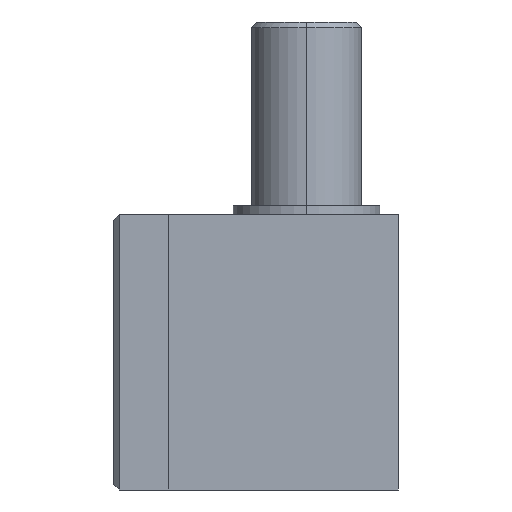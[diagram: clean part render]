
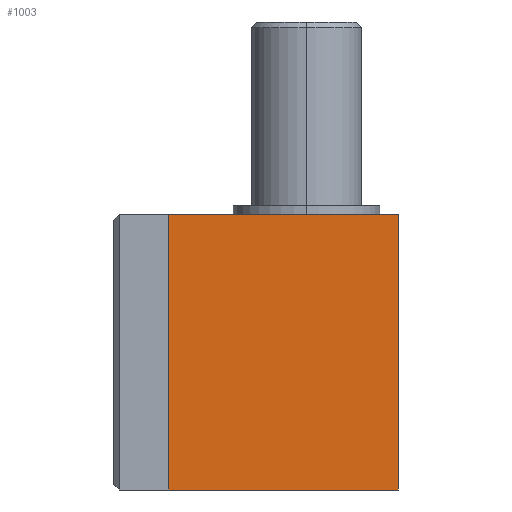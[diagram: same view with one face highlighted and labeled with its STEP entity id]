
A CAD part, left-side view. The second image highlights one B-rep face of the part: STEP entity #1003.
In plain terms, the highlighted planar face has unit normal (-1, 0, 0).
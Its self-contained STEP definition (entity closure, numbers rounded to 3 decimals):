
#41 = CARTESIAN_POINT ( 'NONE',  ( 0., 25., 15. ) ) ;
#49 = LINE ( 'NONE', #41, #1731 ) ;
#107 = DIRECTION ( 'NONE',  ( 0., 0., -1. ) ) ;
#109 = CARTESIAN_POINT ( 'NONE',  ( 0., 25., -15. ) ) ;
#169 = CARTESIAN_POINT ( 'NONE',  ( 0., 0., 15. ) ) ;
#201 = LINE ( 'NONE', #845, #1447 ) ;
#258 = LINE ( 'NONE', #787, #1981 ) ;
#279 = VERTEX_POINT ( 'NONE', #169 ) ;
#579 = AXIS2_PLACEMENT_3D ( 'NONE', #2060, #1087, #107 ) ;
#591 = FACE_OUTER_BOUND ( 'NONE', #898, .T. ) ;
#652 = LINE ( 'NONE', #1725, #1139 ) ;
#750 = DIRECTION ( 'NONE',  ( 0., 0., 1. ) ) ;
#787 = CARTESIAN_POINT ( 'NONE',  ( 0., 25., -15. ) ) ;
#845 = CARTESIAN_POINT ( 'NONE',  ( 0., 25., 15. ) ) ;
#873 = VERTEX_POINT ( 'NONE', #109 ) ;
#898 = EDGE_LOOP ( 'NONE', ( #1122, #1741, #1560, #1166 ) ) ;
#1003 = ADVANCED_FACE ( 'NONE', ( #591 ), #1948, .F. ) ;
#1005 = DIRECTION ( 'NONE',  ( 0., 0., 1. ) ) ;
#1087 = DIRECTION ( 'NONE',  ( 1., 0., 0. ) ) ;
#1122 = ORIENTED_EDGE ( 'NONE', *, *, #1474, .T. ) ;
#1139 = VECTOR ( 'NONE', #750, 1000. ) ;
#1166 = ORIENTED_EDGE ( 'NONE', *, *, #1663, .T. ) ;
#1293 = EDGE_CURVE ( 'NONE', #1884, #279, #49, .T. ) ;
#1323 = VERTEX_POINT ( 'NONE', #1363 ) ;
#1345 = DIRECTION ( 'NONE',  ( 0., -1., 0. ) ) ;
#1349 = CARTESIAN_POINT ( 'NONE',  ( 0., 25., 15. ) ) ;
#1363 = CARTESIAN_POINT ( 'NONE',  ( 0., 0., -15. ) ) ;
#1447 = VECTOR ( 'NONE', #1005, 1000. ) ;
#1474 = EDGE_CURVE ( 'NONE', #1323, #279, #652, .T. ) ;
#1560 = ORIENTED_EDGE ( 'NONE', *, *, #1717, .F. ) ;
#1663 = EDGE_CURVE ( 'NONE', #873, #1323, #258, .T. ) ;
#1717 = EDGE_CURVE ( 'NONE', #873, #1884, #201, .T. ) ;
#1725 = CARTESIAN_POINT ( 'NONE',  ( 0., 0., 15. ) ) ;
#1731 = VECTOR ( 'NONE', #1345, 1000. ) ;
#1741 = ORIENTED_EDGE ( 'NONE', *, *, #1293, .F. ) ;
#1759 = DIRECTION ( 'NONE',  ( 0., -1., 0. ) ) ;
#1884 = VERTEX_POINT ( 'NONE', #1349 ) ;
#1948 = PLANE ( 'NONE',  #579 ) ;
#1981 = VECTOR ( 'NONE', #1759, 1000. ) ;
#2060 = CARTESIAN_POINT ( 'NONE',  ( 0., 25., 15. ) ) ;
